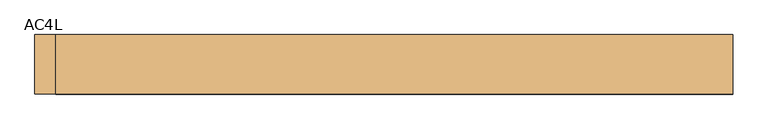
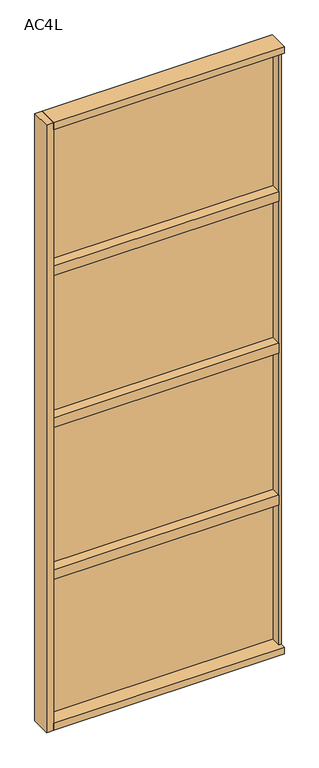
"""IFC4 building model written with IfcOpenShell, lengths in millimetres: door geometry, Mobiliário_Mobiliário de Escritório_Painel Lambri - AC4L (Inicial e Final)_Marelli : AC4L."""

from ifc_helpers import new_model, si_unit, frame, origin, origin_with_axes, place, context, project, spatial, polyline, outline, extrude, source, transform, mapped, element, save


def ac4l_2f4fa108(model_context):
    return source(origin(), model_context, "Body", "SweptSolid", [
        extrude(outline(polyline([(500.0, 42.5), (500.0, -42.5), (-470.0, -42.5), (-470.0, 42.5), (500.0, 42.5)])), origin_with_axes(), (0.0, 0.0, 1.0), 30.0),
        extrude(outline(polyline([(490.0, 39.5), (490.0, 21.5), (-470.0, 21.5), (-470.0, 39.5), (490.0, 39.5)])), frame((0.0, 0.0, 30.0), z_axis=(0.0, 0.0, 1.0), x_axis=(1.0, 0.0, 0.0)), (0.0, 0.0, 1.0), 640.0),
        extrude(outline(polyline([(490.0, 21.5), (490.0, -21.5), (-470.0, -21.5), (-470.0, 21.5), (490.0, 21.5)])), frame((0.0, 0.0, 653.5), z_axis=(0.0, 0.0, 1.0), x_axis=(1.0, 0.0, 0.0)), (0.0, 0.0, 1.0), 43.0),
        extrude(outline(polyline([(500.0, 42.5), (500.0, -42.5), (-470.0, -42.5), (-470.0, 42.5), (500.0, 42.5)])), frame((0.0, 0.0, 2670.0), z_axis=(0.0, 0.0, 1.0), x_axis=(1.0, 0.0, 0.0)), (0.0, 0.0, 1.0), 30.0),
        extrude(outline(polyline([(490.0, 39.5), (490.0, 21.5), (-470.0, 21.5), (-470.0, 39.5), (490.0, 39.5)])), frame((0.0, 0.0, 1355.0), z_axis=(0.0, 0.0, 1.0), x_axis=(1.0, 0.0, 0.0)), (0.0, 0.0, 1.0), 665.0),
        extrude(outline(polyline([(490.0, 21.5), (490.0, -21.5), (-470.0, -21.5), (-470.0, 21.5), (490.0, 21.5)])), frame((0.0, 0.0, 2003.5), z_axis=(0.0, 0.0, 1.0), x_axis=(1.0, 0.0, 0.0)), (0.0, 0.0, 1.0), 43.0),
        extrude(outline(polyline([(490.0, 21.5), (490.0, -21.5), (-470.0, -21.5), (-470.0, 21.5), (490.0, 21.5)])), frame((0.0, 0.0, 1328.5), z_axis=(0.0, 0.0, 1.0), x_axis=(1.0, 0.0, 0.0)), (0.0, 0.0, 1.0), 43.0),
        extrude(outline(polyline([(-500.0, -42.5), (-500.0, 42.5), (-470.0, 42.5), (-470.0, -42.5), (-500.0, -42.5)])), origin_with_axes(), (0.0, 0.0, 1.0), 2700.0),
        extrude(outline(polyline([(500.0, -21.5), (490.0, -21.5), (490.0, 21.5), (500.0, 21.5), (500.0, -21.5)])), frame((0.0, 0.0, 30.0), z_axis=(0.0, 0.0, 1.0), x_axis=(1.0, 0.0, 0.0)), (0.0, 0.0, 1.0), 2640.0),
        extrude(outline(polyline([(490.0, 39.5), (490.0, 21.5), (-470.0, 21.5), (-470.0, 39.5), (490.0, 39.5)])), frame((0.0, 0.0, 2030.0), z_axis=(0.0, 0.0, 1.0), x_axis=(1.0, 0.0, 0.0)), (0.0, 0.0, 1.0), 640.0),
        extrude(outline(polyline([(490.0, 39.5), (490.0, 21.5), (-470.0, 21.5), (-470.0, 39.5), (490.0, 39.5)])), frame((0.0, 0.0, 680.0), z_axis=(0.0, 0.0, 1.0), x_axis=(1.0, 0.0, 0.0)), (0.0, 0.0, 1.0), 665.0),
    ])


if __name__ == "__main__":
    model = new_model("IFC4")
    model_context = context("Model", 3, world=origin())
    ifc_project = project(units=[si_unit("LENGTHUNIT", "METRE", prefix="MILLI")], contexts=[model_context])
    site = spatial("IfcSite", under=ifc_project)
    building = spatial("IfcBuilding", under=site)
    placement = place(None, origin())
    ac4l_shape = ac4l_2f4fa108(model_context)
    element("IfcDoor", 1, ObjectType="Mobiliário_Mobiliário de Escritório_Painel Lambri - AC4L (Inicial e Final)_Marelli : AC4L", at=placement, inside=building, context=model_context, shape_type="MappedRepresentation", body=[
        mapped(ac4l_shape, transform((0.0, 0.0, 0.0), x_axis=(1.0, 0.0, 0.0), y_axis=(0.0, 1.0, 0.0), z_axis=(0.0, 0.0, 1.0))),
    ])
    save(model, "model.ifc")
